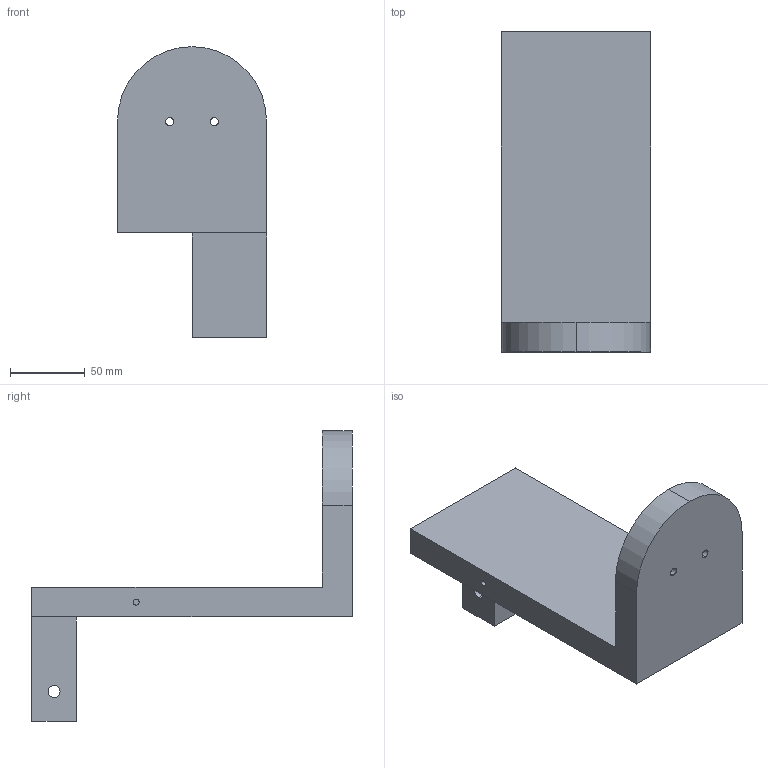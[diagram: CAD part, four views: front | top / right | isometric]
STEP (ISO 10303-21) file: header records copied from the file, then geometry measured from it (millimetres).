
FILE_DESCRIPTION (( 'STEP AP214' ), '1' );
FILE_NAME ('Porta botella.STEP', '2019-05-12T02:00:27', ( '' ), ( '' ), 'SwSTEP 2.0', 'SolidWorks 2018', '' );
FILE_SCHEMA (( 'AUTOMOTIVE_DESIGN' ));
Length unit declared in the file: millimetre
Products named in the file (1): Porta botella
Bounding box: 100 x 215 x 195 mm (x, y, z)
Volume: 700945.9 mm3; surface area: 91800.2 mm2
Topology: 1 solids, 1 shells, 24 faces, 60 edges, 40 vertices
Faces by surface type: cylinder 12, plane 12
Entity records: 774 total; most frequent: DIRECTION 134, CARTESIAN_POINT 125, ORIENTED_EDGE 120, EDGE_CURVE 60, AXIS2_PLACEMENT_3D 49, VERTEX_POINT 40, LINE 36, VECTOR 36
